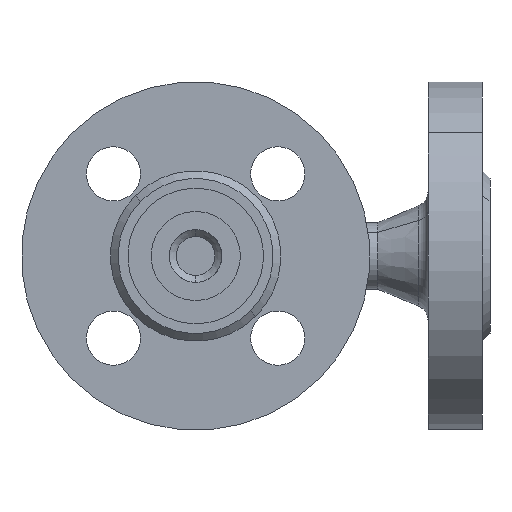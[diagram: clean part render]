
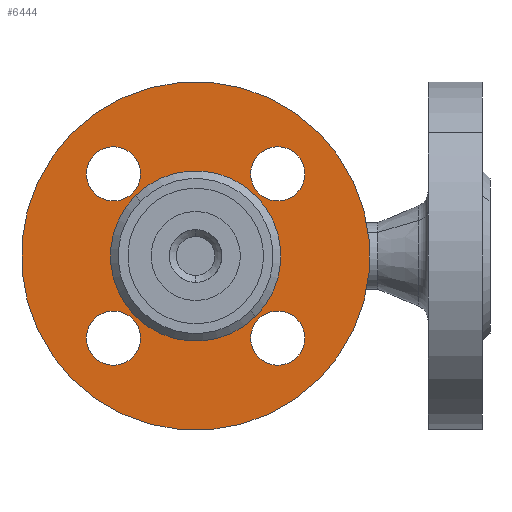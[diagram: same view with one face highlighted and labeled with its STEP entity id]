
A CAD part, front view. The second image highlights one B-rep face of the part: STEP entity #6444.
In plain terms, the highlighted planar face has unit normal (0, -1, 0).
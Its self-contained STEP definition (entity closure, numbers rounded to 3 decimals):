
#587 = CIRCLE ( 'NONE', #588, 7. ) ;
#588 = AXIS2_PLACEMENT_3D ( 'NONE', #589, #594, #595 ) ;
#589 = CARTESIAN_POINT ( 'NONE',  ( 0., 2., -30. ) ) ;
#594 = DIRECTION ( 'NONE',  ( 0., 1., 0. ) ) ;
#595 = DIRECTION ( 'NONE',  ( -1., 0., 0. ) ) ;
#17330 = CIRCLE ( 'NONE', #17331, 7. ) ;
#17331 = AXIS2_PLACEMENT_3D ( 'NONE', #17332, #17333, #17334 ) ;
#17332 = CARTESIAN_POINT ( 'NONE',  ( -30., 2., 0. ) ) ;
#17333 = DIRECTION ( 'NONE',  ( 0., 1., 0. ) ) ;
#17334 = DIRECTION ( 'NONE',  ( -1., 0., 0. ) ) ;
#17560 = CARTESIAN_POINT ( 'NONE',  ( -22., 2., 0. ) ) ;
#1368 = VERTEX_POINT ( 'NONE', #14473 ) ;
#17946 = CIRCLE ( 'NONE', #17947, 22. ) ;
#17947 = AXIS2_PLACEMENT_3D ( 'NONE', #17948, #17949, #17950 ) ;
#17948 = CARTESIAN_POINT ( 'NONE',  ( 0., 2., 0. ) ) ;
#17949 = DIRECTION ( 'NONE',  ( 0., 1., 0. ) ) ;
#17950 = DIRECTION ( 'NONE',  ( -1., 0., 0. ) ) ;
#1594 = VERTEX_POINT ( 'NONE', #14672 ) ;
#1780 = CARTESIAN_POINT ( 'NONE',  ( 45., 2., 0. ) ) ;
#1820 = EDGE_CURVE ( 'NONE', #1594, #1368, #15095, .T. ) ;
#2226 = CARTESIAN_POINT ( 'NONE',  ( -45., 2., 0. ) ) ;
#2376 = CIRCLE ( 'NONE', #2377, 45. ) ;
#2377 = AXIS2_PLACEMENT_3D ( 'NONE', #2378, #2379, #2380 ) ;
#2378 = CARTESIAN_POINT ( 'NONE',  ( 0., 2., 0. ) ) ;
#2379 = DIRECTION ( 'NONE',  ( 0., 1., 0. ) ) ;
#2380 = DIRECTION ( 'NONE',  ( -1., 0., 0. ) ) ;
#2475 = ORIENTED_EDGE ( 'NONE', *, *, #11590, .T. ) ;
#2576 = VERTEX_POINT ( 'NONE', #16180 ) ;
#2802 = EDGE_CURVE ( 'NONE', #2576, #11982, #17330, .T. ) ;
#2808 = FACE_BOUND ( 'NONE', #6200, .T. ) ;
#2809 = FACE_BOUND ( 'NONE', #4516, .T. ) ;
#2810 = FACE_BOUND ( 'NONE', #2840, .T. ) ;
#2811 = FACE_BOUND ( 'NONE', #10810, .T. ) ;
#2812 = FACE_OUTER_BOUND ( 'NONE', #8951, .T. ) ;
#2813 = FACE_BOUND ( 'NONE', #7648, .T. ) ;
#2814 = PLANE ( 'NONE',  #2815 ) ;
#2815 = AXIS2_PLACEMENT_3D ( 'NONE', #2816, #2817, #2818 ) ;
#2816 = CARTESIAN_POINT ( 'NONE',  ( 22., 2., 0. ) ) ;
#2817 = DIRECTION ( 'NONE',  ( 0., 1., 0. ) ) ;
#2818 = DIRECTION ( 'NONE',  ( -1., 0., 0. ) ) ;
#2840 = EDGE_LOOP ( 'NONE', ( #2475, #11060 ) ) ;
#3087 = ORIENTED_EDGE ( 'NONE', *, *, #2802, .T. ) ;
#19829 = ORIENTED_EDGE ( 'NONE', *, *, #4534, .T. ) ;
#3612 = EDGE_CURVE ( 'NONE', #11982, #2576, #20608, .T. ) ;
#20216 = VERTEX_POINT ( 'NONE', #4169 ) ;
#20278 = CIRCLE ( 'NONE', #20279, 7. ) ;
#20279 = AXIS2_PLACEMENT_3D ( 'NONE', #20280, #20281, #20282 ) ;
#20280 = CARTESIAN_POINT ( 'NONE',  ( 30., 2., 0. ) ) ;
#20281 = DIRECTION ( 'NONE',  ( 0., 1., 0. ) ) ;
#20282 = DIRECTION ( 'NONE',  ( -1., 0., 0. ) ) ;
#3991 = ORIENTED_EDGE ( 'NONE', *, *, #3612, .T. ) ;
#4169 = CARTESIAN_POINT ( 'NONE',  ( -7., 2., 30. ) ) ;
#20608 = CIRCLE ( 'NONE', #20609, 7. ) ;
#20609 = AXIS2_PLACEMENT_3D ( 'NONE', #20610, #20611, #20612 ) ;
#20610 = CARTESIAN_POINT ( 'NONE',  ( -30., 2., 0. ) ) ;
#20611 = DIRECTION ( 'NONE',  ( 0., 1., 0. ) ) ;
#20612 = DIRECTION ( 'NONE',  ( -1., 0., 0. ) ) ;
#20631 = VERTEX_POINT ( 'NONE', #4332 ) ;
#20666 = ORIENTED_EDGE ( 'NONE', *, *, #13515, .T. ) ;
#4332 = CARTESIAN_POINT ( 'NONE',  ( 7., 2., 30. ) ) ;
#4516 = EDGE_LOOP ( 'NONE', ( #3991, #3087 ) ) ;
#4534 = EDGE_CURVE ( 'NONE', #15503, #13095, #23908, .T. ) ;
#4545 = CIRCLE ( 'NONE', #4546, 7. ) ;
#4546 = AXIS2_PLACEMENT_3D ( 'NONE', #4547, #4548, #4549 ) ;
#4547 = CARTESIAN_POINT ( 'NONE',  ( 0., 2., 30. ) ) ;
#4548 = DIRECTION ( 'NONE',  ( 0., 1., 0. ) ) ;
#4549 = DIRECTION ( 'NONE',  ( -1., 0., 0. ) ) ;
#20976 = EDGE_CURVE ( 'NONE', #20631, #20216, #4545, .T. ) ;
#4767 = ORIENTED_EDGE ( 'NONE', *, *, #22789, .T. ) ;
#4932 = CARTESIAN_POINT ( 'NONE',  ( -7., 2., -30. ) ) ;
#5302 = EDGE_CURVE ( 'NONE', #21959, #22377, #587, .T. ) ;
#21959 = VERTEX_POINT ( 'NONE', #4932 ) ;
#5671 = ORIENTED_EDGE ( 'NONE', *, *, #5302, .T. ) ;
#5821 = VERTEX_POINT ( 'NONE', #1780 ) ;
#22340 = EDGE_CURVE ( 'NONE', #5821, #6051, #12043, .T. ) ;
#22377 = VERTEX_POINT ( 'NONE', #12075 ) ;
#6051 = VERTEX_POINT ( 'NONE', #2226 ) ;
#6200 = EDGE_LOOP ( 'NONE', ( #5671, #4767 ) ) ;
#6272 = EDGE_CURVE ( 'NONE', #6051, #5821, #2376, .T. ) ;
#22789 = EDGE_CURVE ( 'NONE', #22377, #21959, #12355, .T. ) ;
#6444 = ADVANCED_FACE ( 'NONE', ( #2808, #2809, #2810, #2811, #2812, #2813 ), #2814, .F. ) ;
#23347 = CARTESIAN_POINT ( 'NONE',  ( 22., 2., 0. ) ) ;
#23908 = CIRCLE ( 'NONE', #23909, 22. ) ;
#23909 = AXIS2_PLACEMENT_3D ( 'NONE', #23910, #23911, #23912 ) ;
#23910 = CARTESIAN_POINT ( 'NONE',  ( 0., 2., 0. ) ) ;
#23911 = DIRECTION ( 'NONE',  ( 0., 1., 0. ) ) ;
#23912 = DIRECTION ( 'NONE',  ( -1., 0., 0. ) ) ;
#7648 = EDGE_LOOP ( 'NONE', ( #20666, #19829 ) ) ;
#7899 = ORIENTED_EDGE ( 'NONE', *, *, #22340, .F. ) ;
#8424 = ORIENTED_EDGE ( 'NONE', *, *, #6272, .F. ) ;
#8951 = EDGE_LOOP ( 'NONE', ( #8424, #7899 ) ) ;
#9197 = ORIENTED_EDGE ( 'NONE', *, *, #1820, .T. ) ;
#9729 = EDGE_CURVE ( 'NONE', #1368, #1594, #20278, .T. ) ;
#10105 = ORIENTED_EDGE ( 'NONE', *, *, #9729, .T. ) ;
#10810 = EDGE_LOOP ( 'NONE', ( #10105, #9197 ) ) ;
#11060 = ORIENTED_EDGE ( 'NONE', *, *, #20976, .T. ) ;
#11590 = EDGE_CURVE ( 'NONE', #20216, #20631, #15169, .T. ) ;
#11982 = VERTEX_POINT ( 'NONE', #15964 ) ;
#12043 = CIRCLE ( 'NONE', #12044, 45. ) ;
#12044 = AXIS2_PLACEMENT_3D ( 'NONE', #12045, #12046, #12047 ) ;
#12045 = CARTESIAN_POINT ( 'NONE',  ( 0., 2., 0. ) ) ;
#12046 = DIRECTION ( 'NONE',  ( 0., 1., 0. ) ) ;
#12047 = DIRECTION ( 'NONE',  ( -1., 0., 0. ) ) ;
#12075 = CARTESIAN_POINT ( 'NONE',  ( 7., 2., -30. ) ) ;
#12355 = CIRCLE ( 'NONE', #12356, 7. ) ;
#12356 = AXIS2_PLACEMENT_3D ( 'NONE', #12357, #12358, #12359 ) ;
#12357 = CARTESIAN_POINT ( 'NONE',  ( 0., 2., -30. ) ) ;
#12358 = DIRECTION ( 'NONE',  ( 0., 1., 0. ) ) ;
#12359 = DIRECTION ( 'NONE',  ( -1., 0., 0. ) ) ;
#13095 = VERTEX_POINT ( 'NONE', #17560 ) ;
#13515 = EDGE_CURVE ( 'NONE', #13095, #15503, #17946, .T. ) ;
#14473 = CARTESIAN_POINT ( 'NONE',  ( 23., 2., 0. ) ) ;
#14672 = CARTESIAN_POINT ( 'NONE',  ( 37., 2., 0. ) ) ;
#15095 = CIRCLE ( 'NONE', #15096, 7. ) ;
#15096 = AXIS2_PLACEMENT_3D ( 'NONE', #15097, #15098, #15099 ) ;
#15097 = CARTESIAN_POINT ( 'NONE',  ( 30., 2., 0. ) ) ;
#15098 = DIRECTION ( 'NONE',  ( 0., 1., 0. ) ) ;
#15099 = DIRECTION ( 'NONE',  ( -1., 0., 0. ) ) ;
#15169 = CIRCLE ( 'NONE', #15189, 7. ) ;
#15189 = AXIS2_PLACEMENT_3D ( 'NONE', #15190, #15191, #15192 ) ;
#15190 = CARTESIAN_POINT ( 'NONE',  ( 0., 2., 30. ) ) ;
#15191 = DIRECTION ( 'NONE',  ( 0., 1., 0. ) ) ;
#15192 = DIRECTION ( 'NONE',  ( -1., 0., 0. ) ) ;
#15503 = VERTEX_POINT ( 'NONE', #23347 ) ;
#15964 = CARTESIAN_POINT ( 'NONE',  ( -37., 2., 0. ) ) ;
#16180 = CARTESIAN_POINT ( 'NONE',  ( -23., 2., 0. ) ) ;
